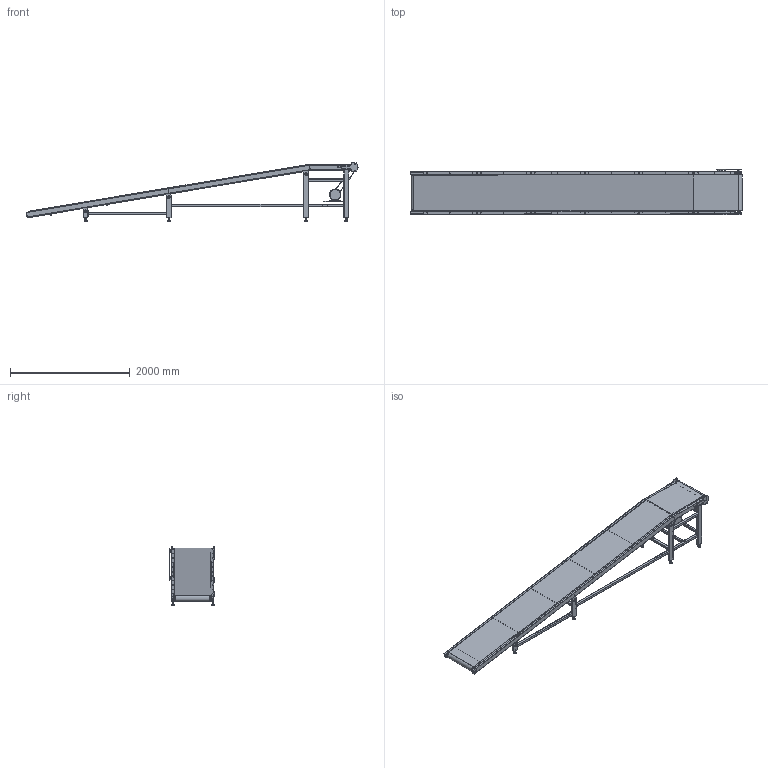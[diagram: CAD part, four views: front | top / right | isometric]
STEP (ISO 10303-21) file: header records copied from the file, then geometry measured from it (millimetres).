
FILE_DESCRIPTION(/* description */ (''),/* implementation_level */ '2;1');
FILE_NAME(/* name */ 'beltconveyor_a056_w600_l5600.stp',/* time_stamp */ '2024-12-23T22:49:13+08:00',/* author */ (''),/* organization */ (''),/* preprocessor_version */ 'ST-DEVELOPER v16.7',/* originating_system */ 'SIEMENS PLM Software NX 12.0',/* authorisation */ '');
FILE_SCHEMA (('AUTOMOTIVE_DESIGN { 1 0 10303 214 3 1 1 1 }'));
Products named in the file (42): 六角螺母 - ISO 4032 - M12; 地脚50-12-50; 皮带; 40X80-750 矩形管; 40X80-2400 矩形管A; 垫板B; 40X80-2400 矩形管B; 40X80-696 矩形管A; 40X40-621 方管; 内六角圆柱头螺钉 - ISO 4762 - M8
X60; 链条; 主动端调节板; 从动轴; 40X80-2400 矩形管C; 六角螺母 - ISO 4033 - M8; 750W 1_2HP 卧式; UCFL206 轴承; MY-SZY003-01 40X80-685 矩形管; DEEP GROOVE BALL BEARING - GB_T 276-94 - 6206; 40X80-373 矩形管; 主动端调节板B; 40X80-2400 矩形管D; 40X40-621 方管02; 40X40-2208 方管; 40X40-621 方管01; MY-SZY001-21 封盖B; 40X40-1306 方管01; 安装电机板; 主动滚筒A; MY-SZY001-28 08B 19Z链轮B; 垫板A; MY-SZY001-02 地脚板; 40X80-590 矩形管; HEX-HEAD BOLT - ISO 8765 - M14 X 1.5 X 140; MY-SZY001-18 连接片; 从动滚筒; 40X80-696 矩形管B; MY-SZY003-23 08B 19Z链轮; 40X40-627 方管01; MY-SZY002-17 角度调节 ...
Assembly tree (104 placements, depth 3):
  beltconveyor_a056_w600_l5600
    地脚组50-12-50  x9
      地脚50-12-50
      六角螺母 - ISO 4032 - M12
    MY-SZY002-17 角度调节  x6
    40X40-627 方管01  x6
    MY-SZY003-23 08B 19Z链轮
    40X80-696 矩形管B
    从动滚筒
    MY-SZY001-18 连接片  x20
    HEX-HEAD BOLT - ISO 8765 - M14 X 1.5 X 140  x2
    40X80-590 矩形管  x2
    MY-SZY001-02 地脚板  x9
    垫板A  x5
    MY-SZY001-28 08B 19Z链轮B
    主动滚筒A
    安装电机板
    40X40-1306 方管01  x2
    MY-SZY001-21 封盖B  x2
    40X40-621 方管01  x2
    40X40-2208 方管  x2
    40X40-621 方管02  x2
    40X80-2400 矩形管D
    主动端调节板B
    40X80-373 矩形管  x2
    DEEP GROOVE BALL BEARING - GB_T 276-94 - 6206  x2
    MY-SZY003-01 40X80-685 矩形管  x2
    UCFL206 轴承  x2
    750W 1_2HP 卧式
    六角螺母 - ISO 4033 - M8  x2
    40X80-2400 矩形管C
    从动轴
    主动端调节板
    链条
    内六角圆柱头螺钉 - ISO 4762 - M8
X60  x2
    40X40-621 方管
    40X80-696 矩形管A
    40X80-2400 矩形管B
    垫板B
    40X80-2400 矩形管A
    40X80-750 矩形管  x2
    皮带
Bounding box: 5556.09 x 762.2 x 974.16 mm (x, y, z)
Volume: 61353677 mm3; surface area: 34447156.8 mm2
Topology: 175 solids, 176 shells, 3518 faces, 9181 edges, 6056 vertices
Faces by surface type: plane 1547, cylinder 1148, extrusion 615, cone 168, torus 36, sphere 4
Entity records: 75468 total; most frequent: CARTESIAN_POINT 23333, ORIENTED_EDGE 11160, DIRECTION 8658, EDGE_CURVE 5580, VERTEX_POINT 3703, VECTOR 3028, AXIS2_PLACEMENT_3D 2815, B_SPLINE_CURVE_WITH_KNOTS 2565
